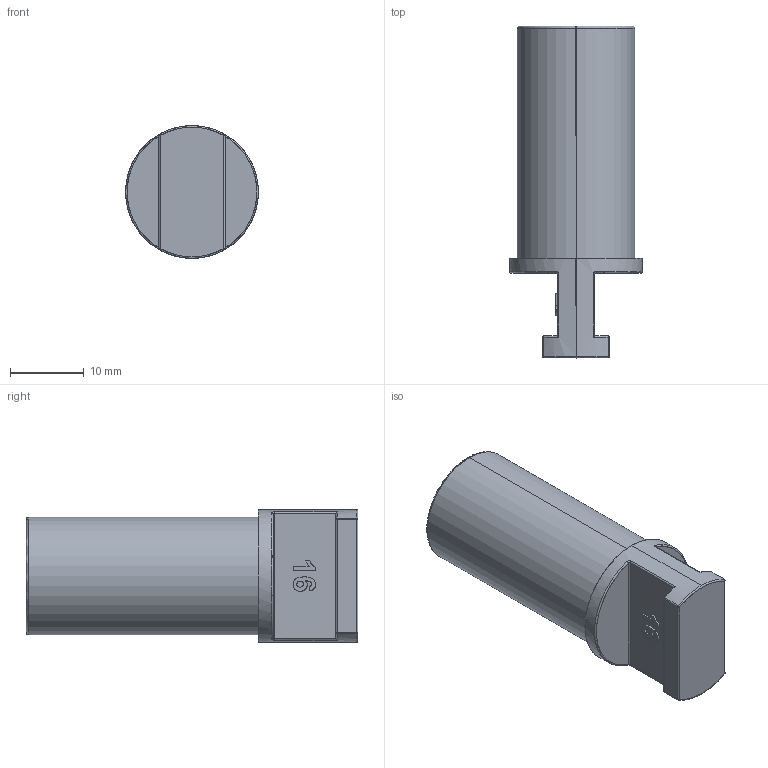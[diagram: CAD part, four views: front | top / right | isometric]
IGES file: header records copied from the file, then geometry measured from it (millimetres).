
Start section: SolidWorks IGES file using analytic representation for surfaces
Global section: file name: K:\Disegni Esecutivi\SERIE 50000\50610\igs\506100031Y5ROA.IGS; native system: SolidWorks 2016; preprocessor: SolidWorks 2016; author: cad06; date: 201214.081429; units: millimetre
Bounding box: 18 x 45 x 18 mm (x, y, z)
Surface area: 4024.4 mm2 (no closed solid volume)
Topology: 0 solids, 0 shells, 79 faces, 782 edges, 782 vertices
Faces by surface type: bspline 51, revolution 28
